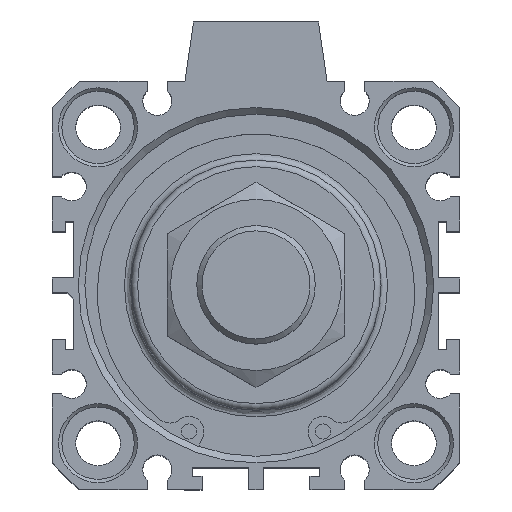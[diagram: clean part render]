
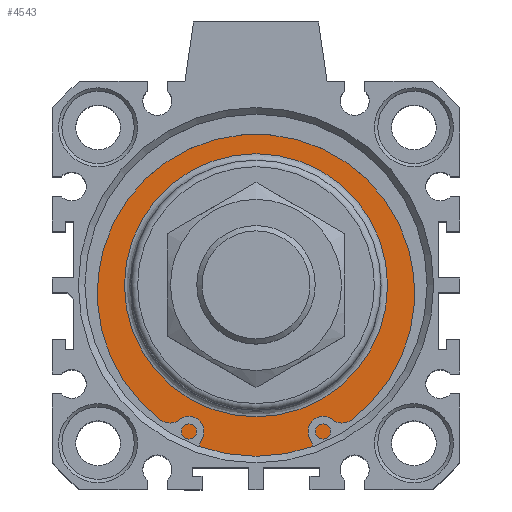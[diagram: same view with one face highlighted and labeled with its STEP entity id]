
A CAD part, top view. The second image highlights one B-rep face of the part: STEP entity #4543.
In plain terms, the highlighted planar face has unit normal (0, 0, 1).
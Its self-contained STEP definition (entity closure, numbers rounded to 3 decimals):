
#4492=CARTESIAN_POINT('',(-0.12,20.837,64.3));
#4493=VERTEX_POINT('',#4492);
#4494=CARTESIAN_POINT('',(-0.12,0.837,64.3));
#4495=DIRECTION('',(0.0,0.0,1.0));
#4496=DIRECTION('',(0.0,-1.0,0.0));
#4497=AXIS2_PLACEMENT_3D('',#4494,#4495,#4496);
#4498=CIRCLE('',#4497,20.0);
#4499=EDGE_CURVE('',#4493,#4493,#4498,.T.);
#4524=CARTESIAN_POINT('',(-0.12,23.337,64.3));
#4525=DIRECTION('',(0.0,0.0,1.0));
#4526=DIRECTION('',(1.0,0.0,0.0));
#4527=AXIS2_PLACEMENT_3D('',#4524,#4525,#4526);
#4528=PLANE('',#4527);
#4529=CARTESIAN_POINT('',(-0.12,26.837,64.3));
#4530=VERTEX_POINT('',#4529);
#4531=CARTESIAN_POINT('',(-0.12,0.837,64.3));
#4532=DIRECTION('',(0.0,0.0,-1.0));
#4533=DIRECTION('',(0.0,1.0,0.0));
#4534=AXIS2_PLACEMENT_3D('',#4531,#4532,#4533);
#4535=CIRCLE('',#4534,26.);
#4536=EDGE_CURVE('',#4530,#4530,#4535,.T.);
#4537=ORIENTED_EDGE('',*,*,#4536,.F.);
#4538=EDGE_LOOP('',(#4537));
#4539=FACE_OUTER_BOUND('',#4538,.T.);
#4540=ORIENTED_EDGE('',*,*,#4499,.F.);
#4541=EDGE_LOOP('',(#4540));
#4542=FACE_BOUND('',#4541,.T.);
#4543=ADVANCED_FACE('',(#4539,#4542),#4528,.T.);
